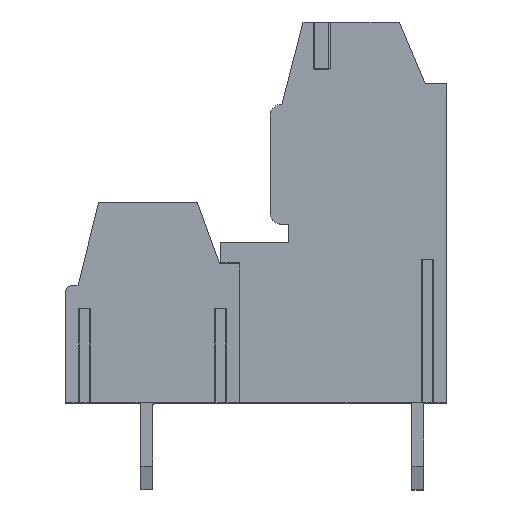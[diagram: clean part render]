
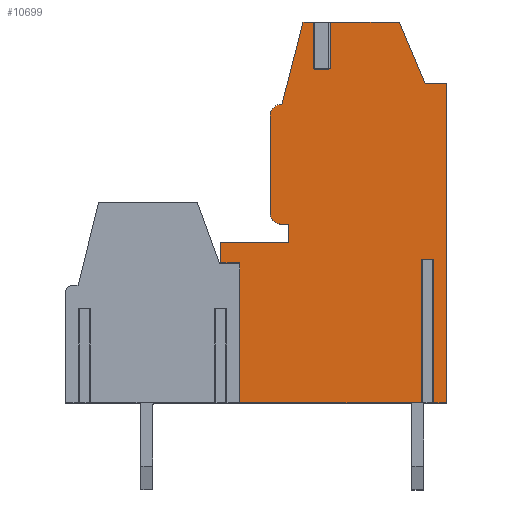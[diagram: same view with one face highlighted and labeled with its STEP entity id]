
A CAD part, top view. The second image highlights one B-rep face of the part: STEP entity #10699.
In plain terms, the highlighted planar face has unit normal (0, 0, 1).
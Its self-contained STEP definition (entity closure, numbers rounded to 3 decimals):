
#486=DIRECTION('',(0.,-1.,0.));
#487=VECTOR('',#486,5.95);
#488=CARTESIAN_POINT('',(7.4,5.95,-1.75));
#489=LINE('',#488,#487);
#494=DIRECTION('',(1.,0.,0.));
#495=VECTOR('',#494,0.8);
#496=CARTESIAN_POINT('',(6.6,5.95,-1.75));
#497=LINE('',#496,#495);
#498=DIRECTION('',(0.,1.,0.));
#499=VECTOR('',#498,0.85);
#500=CARTESIAN_POINT('',(6.6,5.95,-1.75));
#501=LINE('',#500,#499);
#502=DIRECTION('',(1.,0.,0.));
#503=VECTOR('',#502,2.9);
#504=CARTESIAN_POINT('',(6.6,6.8,-1.75));
#505=LINE('',#504,#503);
#506=DIRECTION('',(0.,1.,0.));
#507=VECTOR('',#506,0.8);
#508=CARTESIAN_POINT('',(9.5,6.8,-1.75));
#509=LINE('',#508,#507);
#510=DIRECTION('',(-1.,0.,0.));
#511=VECTOR('',#510,0.3);
#512=CARTESIAN_POINT('',(9.5,7.6,-1.75));
#513=LINE('',#512,#511);
#514=CARTESIAN_POINT('',(9.2,8.1,-1.75));
#515=DIRECTION('',(0.,0.,-1.));
#516=DIRECTION('',(0.,-1.,0.));
#517=AXIS2_PLACEMENT_3D('',#514,#515,#516);
#519=DIRECTION('',(0.,1.,0.));
#520=VECTOR('',#519,4.1);
#521=CARTESIAN_POINT('',(8.7,8.1,-1.75));
#522=LINE('',#521,#520);
#523=CARTESIAN_POINT('',(9.2,12.2,-1.75));
#524=DIRECTION('',(0.,0.,-1.));
#525=DIRECTION('',(-1.,0.,0.));
#526=AXIS2_PLACEMENT_3D('',#523,#524,#525);
#528=DIRECTION('',(0.249,0.968,0.));
#529=VECTOR('',#528,3.614);
#530=CARTESIAN_POINT('',(9.2,12.7,-1.75));
#531=LINE('',#530,#529);
#532=DIRECTION('',(1.,0.,0.));
#533=VECTOR('',#532,0.558);
#534=CARTESIAN_POINT('',(10.1,16.2,-1.75));
#535=LINE('',#534,#533);
#536=DIRECTION('',(1.,0.,0.));
#537=VECTOR('',#536,3.058);
#538=CARTESIAN_POINT('',(11.142,16.2,-1.75));
#539=LINE('',#538,#537);
#540=DIRECTION('',(0.39,-0.921,0.));
#541=VECTOR('',#540,2.823);
#542=CARTESIAN_POINT('',(14.2,16.2,-1.75));
#543=LINE('',#542,#541);
#544=DIRECTION('',(1.,0.,0.));
#545=VECTOR('',#544,0.9);
#546=CARTESIAN_POINT('',(15.3,13.6,-1.75));
#547=LINE('',#546,#545);
#548=DIRECTION('',(0.,-1.,0.));
#549=VECTOR('',#548,13.6);
#550=CARTESIAN_POINT('',(16.2,13.6,-1.75));
#551=LINE('',#550,#549);
#552=DIRECTION('',(-1.,0.,0.));
#553=VECTOR('',#552,0.535);
#554=CARTESIAN_POINT('',(16.2,0.,-1.75));
#555=LINE('',#554,#553);
#556=DIRECTION('',(-1.,0.,0.));
#557=VECTOR('',#556,0.53);
#558=CARTESIAN_POINT('',(15.665,6.1,-1.75));
#559=LINE('',#558,#557);
#560=DIRECTION('',(-1.,0.,0.));
#561=VECTOR('',#560,7.735);
#562=CARTESIAN_POINT('',(15.135,0.,-1.75));
#563=LINE('',#562,#561);
#700=DIRECTION('',(0.,-1.,0.));
#701=VECTOR('',#700,2.);
#702=CARTESIAN_POINT('',(11.142,16.2,-1.75));
#703=LINE('',#702,#701);
#708=DIRECTION('',(-1.,0.,0.));
#709=VECTOR('',#708,0.485);
#710=CARTESIAN_POINT('',(11.142,14.2,-1.75));
#711=LINE('',#710,#709);
#760=DIRECTION('',(0.,1.,0.));
#761=VECTOR('',#760,2.);
#762=CARTESIAN_POINT('',(10.658,14.2,-1.75));
#763=LINE('',#762,#761);
#4240=DIRECTION('',(0.,-1.,0.));
#4241=VECTOR('',#4240,6.1);
#4242=CARTESIAN_POINT('',(15.665,6.1,-1.75));
#4243=LINE('',#4242,#4241);
#4268=DIRECTION('',(0.,1.,0.));
#4269=VECTOR('',#4268,6.1);
#4270=CARTESIAN_POINT('',(15.135,0.,-1.75));
#4271=LINE('',#4270,#4269);
#7770=CARTESIAN_POINT('',(7.4,0.,-1.75));
#7772=VERTEX_POINT('',#7770);
#7773=CARTESIAN_POINT('',(15.135,0.,-1.75));
#7774=VERTEX_POINT('',#7773);
#7794=CARTESIAN_POINT('',(15.665,0.,-1.75));
#7796=VERTEX_POINT('',#7794);
#7797=CARTESIAN_POINT('',(16.2,0.,-1.75));
#7798=VERTEX_POINT('',#7797);
#8101=CARTESIAN_POINT('',(6.6,6.8,-1.75));
#8102=CARTESIAN_POINT('',(9.5,6.8,-1.75));
#8103=VERTEX_POINT('',#8101);
#8104=VERTEX_POINT('',#8102);
#8105=CARTESIAN_POINT('',(9.5,7.6,-1.75));
#8106=VERTEX_POINT('',#8105);
#8107=CARTESIAN_POINT('',(9.2,7.6,-1.75));
#8108=VERTEX_POINT('',#8107);
#8109=CARTESIAN_POINT('',(8.7,8.1,-1.75));
#8110=VERTEX_POINT('',#8109);
#8111=CARTESIAN_POINT('',(8.7,12.2,-1.75));
#8112=VERTEX_POINT('',#8111);
#8113=CARTESIAN_POINT('',(9.2,12.7,-1.75));
#8114=VERTEX_POINT('',#8113);
#8115=CARTESIAN_POINT('',(10.1,16.2,-1.75));
#8116=VERTEX_POINT('',#8115);
#8117=CARTESIAN_POINT('',(10.658,16.2,-1.75));
#8118=VERTEX_POINT('',#8117);
#8119=CARTESIAN_POINT('',(10.658,14.2,-1.75));
#8120=VERTEX_POINT('',#8119);
#8121=CARTESIAN_POINT('',(11.142,14.2,-1.75));
#8122=VERTEX_POINT('',#8121);
#8123=CARTESIAN_POINT('',(11.142,16.2,-1.75));
#8124=VERTEX_POINT('',#8123);
#8125=CARTESIAN_POINT('',(14.2,16.2,-1.75));
#8126=VERTEX_POINT('',#8125);
#8127=CARTESIAN_POINT('',(15.3,13.6,-1.75));
#8128=VERTEX_POINT('',#8127);
#8129=CARTESIAN_POINT('',(16.2,13.6,-1.75));
#8130=VERTEX_POINT('',#8129);
#8131=CARTESIAN_POINT('',(15.665,6.1,-1.75));
#8132=VERTEX_POINT('',#8131);
#8133=CARTESIAN_POINT('',(15.135,6.1,-1.75));
#8134=VERTEX_POINT('',#8133);
#9179=CARTESIAN_POINT('',(6.6,5.95,-1.75));
#9180=CARTESIAN_POINT('',(7.4,5.95,-1.75));
#9181=VERTEX_POINT('',#9179);
#9182=VERTEX_POINT('',#9180);
#10651=CARTESIAN_POINT('',(11.4,0.,-1.75));
#10652=DIRECTION('',(0.,0.,1.));
#10653=DIRECTION('',(1.,0.,0.));
#10654=AXIS2_PLACEMENT_3D('',#10651,#10652,#10653);
#10655=PLANE('',#10654);
#10656=ORIENTED_EDGE('',*,*,#10630,.F.);
#10657=ORIENTED_EDGE('',*,*,#10643,.F.);
#10658=ORIENTED_EDGE('',*,*,#9901,.T.);
#10660=ORIENTED_EDGE('',*,*,#10659,.T.);
#10662=ORIENTED_EDGE('',*,*,#10661,.T.);
#10664=ORIENTED_EDGE('',*,*,#10663,.T.);
#10666=ORIENTED_EDGE('',*,*,#10665,.T.);
#10668=ORIENTED_EDGE('',*,*,#10667,.T.);
#10670=ORIENTED_EDGE('',*,*,#10669,.T.);
#10672=ORIENTED_EDGE('',*,*,#10671,.T.);
#10674=ORIENTED_EDGE('',*,*,#10673,.T.);
#10676=ORIENTED_EDGE('',*,*,#10675,.F.);
#10678=ORIENTED_EDGE('',*,*,#10677,.F.);
#10680=ORIENTED_EDGE('',*,*,#10679,.F.);
#10682=ORIENTED_EDGE('',*,*,#10681,.T.);
#10684=ORIENTED_EDGE('',*,*,#10683,.T.);
#10686=ORIENTED_EDGE('',*,*,#10685,.T.);
#10688=ORIENTED_EDGE('',*,*,#10687,.T.);
#10689=ORIENTED_EDGE('',*,*,#10292,.T.);
#10691=ORIENTED_EDGE('',*,*,#10690,.F.);
#10693=ORIENTED_EDGE('',*,*,#10692,.T.);
#10695=ORIENTED_EDGE('',*,*,#10694,.F.);
#10696=ORIENTED_EDGE('',*,*,#10268,.T.);
#10697=EDGE_LOOP('',(#10656,#10657,#10658,#10660,#10662,#10664,#10666,#10668,
#10670,#10672,#10674,#10676,#10678,#10680,#10682,#10684,#10686,#10688,#10689,
#10691,#10693,#10695,#10696));
#10698=FACE_OUTER_BOUND('',#10697,.F.);
#10699=ADVANCED_FACE('',(#10698),#10655,.T.);
#518=CIRCLE('',#517,0.5);
#527=CIRCLE('',#526,0.5);
#9901=EDGE_CURVE('',#9181,#8103,#501,.T.);
#10268=EDGE_CURVE('',#7774,#7772,#563,.T.);
#10292=EDGE_CURVE('',#7798,#7796,#555,.T.);
#10630=EDGE_CURVE('',#9182,#7772,#489,.T.);
#10643=EDGE_CURVE('',#9181,#9182,#497,.T.);
#10659=EDGE_CURVE('',#8103,#8104,#505,.T.);
#10661=EDGE_CURVE('',#8104,#8106,#509,.T.);
#10663=EDGE_CURVE('',#8106,#8108,#513,.T.);
#10665=EDGE_CURVE('',#8108,#8110,#518,.T.);
#10667=EDGE_CURVE('',#8110,#8112,#522,.T.);
#10669=EDGE_CURVE('',#8112,#8114,#527,.T.);
#10671=EDGE_CURVE('',#8114,#8116,#531,.T.);
#10673=EDGE_CURVE('',#8116,#8118,#535,.T.);
#10675=EDGE_CURVE('',#8120,#8118,#763,.T.);
#10677=EDGE_CURVE('',#8122,#8120,#711,.T.);
#10679=EDGE_CURVE('',#8124,#8122,#703,.T.);
#10681=EDGE_CURVE('',#8124,#8126,#539,.T.);
#10683=EDGE_CURVE('',#8126,#8128,#543,.T.);
#10685=EDGE_CURVE('',#8128,#8130,#547,.T.);
#10687=EDGE_CURVE('',#8130,#7798,#551,.T.);
#10690=EDGE_CURVE('',#8132,#7796,#4243,.T.);
#10692=EDGE_CURVE('',#8132,#8134,#559,.T.);
#10694=EDGE_CURVE('',#7774,#8134,#4271,.T.);
